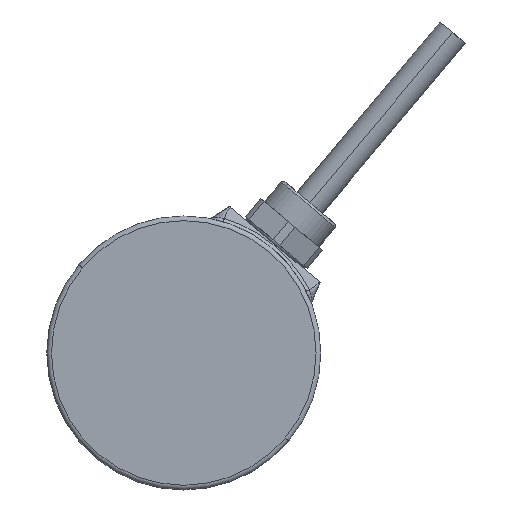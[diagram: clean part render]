
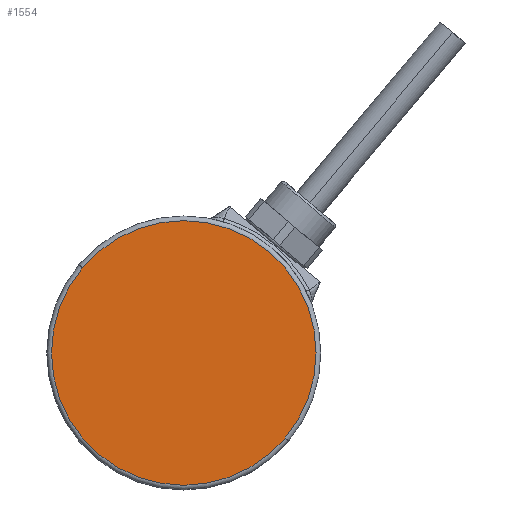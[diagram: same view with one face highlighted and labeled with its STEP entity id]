
A CAD part, left-side view. The second image highlights one B-rep face of the part: STEP entity #1554.
In plain terms, the highlighted planar face has unit normal (-1, 0, 0).
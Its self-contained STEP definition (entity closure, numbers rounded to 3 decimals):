
#163 = CARTESIAN_POINT ( 'NONE',  ( -40., 21.449, 17.998 ) ) ;
#201 = DIRECTION ( 'NONE',  ( 0., 0.766, 0.643 ) ) ;
#414 = CIRCLE ( 'NONE', #2717, 28. ) ;
#806 = PLANE ( 'NONE',  #4829 ) ;
#874 = ORIENTED_EDGE ( 'NONE', *, *, #3325, .T. ) ;
#1554 = ADVANCED_FACE ( 'NONE', ( #5112 ), #806, .F. ) ;
#1579 = DIRECTION ( 'NONE',  ( 0., 0.766, 0.643 ) ) ;
#1689 = ORIENTED_EDGE ( 'NONE', *, *, #5011, .T. ) ;
#1756 = DIRECTION ( 'NONE',  ( -1., 0., 0. ) ) ;
#2227 = VERTEX_POINT ( 'NONE', #163 ) ;
#2609 = CARTESIAN_POINT ( 'NONE',  ( -40., -21.449, -17.998 ) ) ;
#2698 = AXIS2_PLACEMENT_3D ( 'NONE', #6327, #1756, #7097 ) ;
#2717 = AXIS2_PLACEMENT_3D ( 'NONE', #9353, #4759, #201 ) ;
#3325 = EDGE_CURVE ( 'NONE', #2227, #7893, #7845, .T. ) ;
#4565 = CARTESIAN_POINT ( 'NONE',  ( -40., 0., 0. ) ) ;
#4759 = DIRECTION ( 'NONE',  ( -1., 0., 0. ) ) ;
#4829 = AXIS2_PLACEMENT_3D ( 'NONE', #4565, #6145, #1579 ) ;
#5011 = EDGE_CURVE ( 'NONE', #7893, #2227, #414, .T. ) ;
#5112 = FACE_OUTER_BOUND ( 'NONE', #9089, .T. ) ;
#6145 = DIRECTION ( 'NONE',  ( 1., 0., 0. ) ) ;
#6327 = CARTESIAN_POINT ( 'NONE',  ( -40., 0., 0. ) ) ;
#7097 = DIRECTION ( 'NONE',  ( 0., 0.766, 0.643 ) ) ;
#7845 = CIRCLE ( 'NONE', #2698, 28. ) ;
#7893 = VERTEX_POINT ( 'NONE', #2609 ) ;
#9089 = EDGE_LOOP ( 'NONE', ( #874, #1689 ) ) ;
#9353 = CARTESIAN_POINT ( 'NONE',  ( -40., 0., 0. ) ) ;
